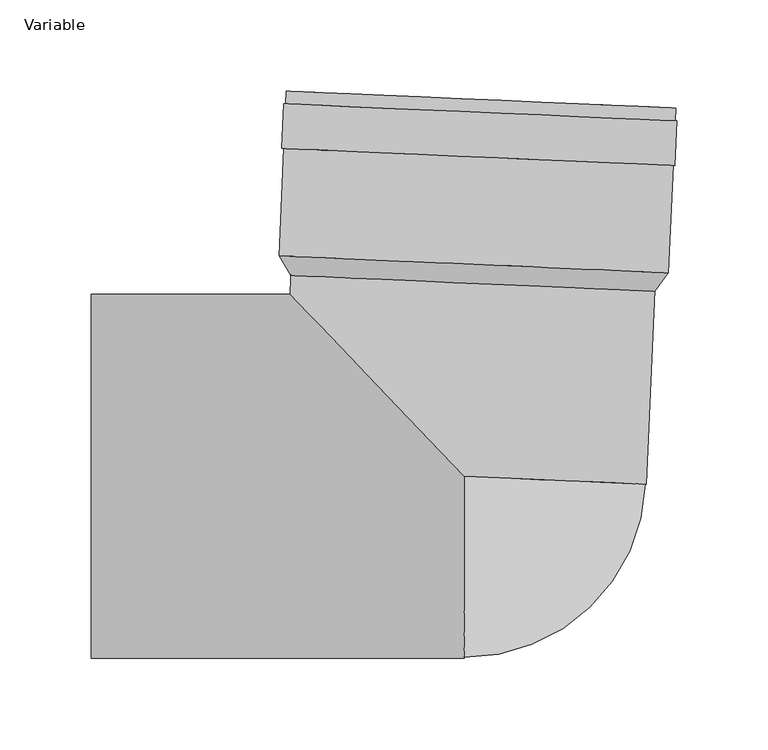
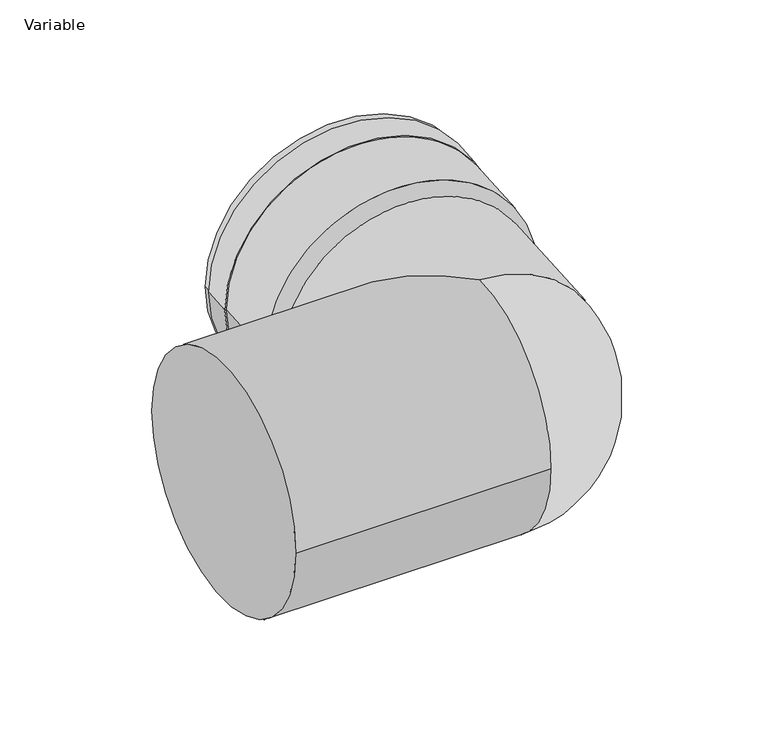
"""IFC4 building model written with IfcOpenShell, lengths in millimetres: pipe fitting geometry, AliaxisFR_Friaphon_ElbowMF_FR : Variable."""

from ifc_helpers import new_model, si_unit, point, frame, origin, place, context, project, spatial, polyline, circle_curve, ellipse_curve, trimmed, source, transform, mapped, element, save
from ifc_brep_helpers import plane_surface, cylinder_surface, revolved_surface, advanced_brep


def variable_7b961468(model_context):
    return source(origin(), model_context, "Body", "AdvancedBrep", [
        advanced_brep(
        [(115.9273729, 202.1357074, 0.0), (-97.8689465, 211.4702563, 0.0), (-90.875609, 211.1649206, 0.0), (108.9340353, 202.4410431, 0.0), (115.5524104, 170.6220691, 0.0), (-100.2420054, 180.0438567, 0.0), (-99.1733305, 204.5205382, 0.0), (116.6210854, 195.0987505, 0.0), (114.5533622, 170.6656884, 0.0), (-99.2429572, 180.0002373, 0.0), (111.9798183, 111.7218434, 0.0), (-101.8165011, 121.0563923, 0.0), (-95.2811671, 110.2610502, 0.0), (104.5284772, 101.5371728, 0.0), (115.6220372, 195.1423699, 0.0), (-98.1742822, 204.4769188, 0.0)],
        [
            (0, 1, circle_curve(frame((9.0292132, 206.8029819, 0.0), z_axis=(0.0436193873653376, 0.9990482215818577, 0.0), x_axis=(-0.9990482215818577, 0.0436193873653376, 0.0)), 107.0)),
            (1, 2),
            (2, 3, circle_curve(frame((9.0292132, 206.8029819, 0.0), z_axis=(-0.0436193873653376, -0.9990482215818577, 0.0), x_axis=(-0.9990482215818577, 0.0436193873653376, 0.0)), 100.0)),
            (3, 0),
            (1, 0, circle_curve(frame((9.0292132, 206.8029819, 0.0), z_axis=(0.0436193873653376, 0.9990482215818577, 0.0), x_axis=(-0.9990482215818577, 0.0436193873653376, 0.0)), 107.0)),
            (3, 2, circle_curve(frame((9.0292132, 206.8029819, 0.0), z_axis=(-0.0436193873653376, -0.9990482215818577, 0.0), x_axis=(-0.9990482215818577, 0.0436193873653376, 0.0)), 100.0)),
            (4, 5, circle_curve(frame((7.6552025, 175.3329629, 0.0), z_axis=(0.0436193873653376, 0.9990482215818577, 0.0), x_axis=(-0.9990482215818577, 0.0436193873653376, 0.0)), 108.0)),
            (5, 6),
            (6, 7, circle_curve(frame((8.7238775, 199.8096443, 0.0), z_axis=(-0.0436193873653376, -0.9990482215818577, 0.0), x_axis=(-0.9990482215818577, 0.0436193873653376, 0.0)), 108.0)),
            (7, 4),
            (5, 4, circle_curve(frame((7.6552025, 175.3329629, 0.0), z_axis=(0.0436193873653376, 0.9990482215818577, 0.0), x_axis=(-0.9990482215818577, 0.0436193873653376, 0.0)), 108.0)),
            (7, 6, circle_curve(frame((8.7238775, 199.8096443, 0.0), z_axis=(-0.0436193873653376, -0.9990482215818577, 0.0), x_axis=(-0.9990482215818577, 0.0436193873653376, 0.0)), 108.0)),
            (8, 9, circle_curve(frame((7.6552025, 175.3329629, 0.0), z_axis=(0.0436193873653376, 0.9990482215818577, 0.0), x_axis=(-0.9990482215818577, 0.0436193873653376, 0.0)), 107.0)),
            (9, 5),
            (4, 8),
            (9, 8, circle_curve(frame((7.6552025, 175.3329629, 0.0), z_axis=(0.0436193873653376, 0.9990482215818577, 0.0), x_axis=(-0.9990482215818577, 0.0436193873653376, 0.0)), 107.0)),
            (10, 11, circle_curve(frame((5.0816586, 116.3891178, 0.0), z_axis=(0.0436193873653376, 0.9990482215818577, 0.0), x_axis=(-0.9990482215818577, 0.0436193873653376, 0.0)), 107.0)),
            (11, 9),
            (8, 10),
            (11, 10, circle_curve(frame((5.0816586, 116.3891178, 0.0), z_axis=(0.0436193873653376, 0.9990482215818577, 0.0), x_axis=(-0.9990482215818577, 0.0436193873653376, 0.0)), 107.0)),
            (2, 12),
            (12, 13, circle_curve(frame((4.6236551, 105.8991115, 0.0), z_axis=(-0.0436193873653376, -0.9990482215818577, 0.0), x_axis=(-0.9990482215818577, 0.0436193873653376, 0.0)), 100.0)),
            (13, 3),
            (13, 12, circle_curve(frame((4.6236551, 105.8991115, 0.0), z_axis=(-0.0436193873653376, -0.9990482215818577, 0.0), x_axis=(-0.9990482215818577, 0.0436193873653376, 0.0)), 100.0)),
            (12, 11),
            (10, 13),
            (14, 15, circle_curve(frame((8.7238775, 199.8096443, 0.0), z_axis=(0.0436193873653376, 0.9990482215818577, 0.0), x_axis=(-0.9990482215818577, 0.0436193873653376, 0.0)), 107.0)),
            (15, 1),
            (0, 14),
            (15, 14, circle_curve(frame((8.7238775, 199.8096443, 0.0), z_axis=(0.0436193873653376, 0.9990482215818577, 0.0), x_axis=(-0.9990482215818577, 0.0436193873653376, 0.0)), 107.0)),
            (6, 15),
            (14, 7),
        ],
        [
            plane_surface(frame((9.0292132, 206.8029819, 0.0), z_axis=(0.0436193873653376, 0.9990482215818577, 0.0), x_axis=(-0.9990482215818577, 0.0436193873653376, 0.0))),
            cylinder_surface(frame((4.6236551, 105.8991115, 0.0), z_axis=(-0.0436193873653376, -0.9990482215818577, 0.0), x_axis=(-0.9990482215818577, 0.0436193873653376, 0.0)), 108.0),
            plane_surface(frame((7.6552025, 175.3329629, 0.0), z_axis=(-0.0436193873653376, -0.9990482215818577, 0.0), x_axis=(-0.9990482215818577, 0.0436193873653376, 0.0))),
            cylinder_surface(frame((4.6236551, 105.8991115, 0.0), z_axis=(-0.0436193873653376, -0.9990482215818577, 0.0), x_axis=(-0.9990482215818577, 0.0436193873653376, 0.0)), 107.0),
            revolved_surface(polyline([(-95.2811670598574, 110.26105019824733, 0.0), (-90.87560893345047, 211.16492063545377, 0.0)]), (4.6236551, 105.8991115, 0.0), (-0.0436193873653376, -0.9990482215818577, 0.0)),
            revolved_surface(polyline([(-101.8165011, 121.0563923, 0.0), (-95.2811671, 110.2610502, 0.0)]), (4.6236551, 105.8991115, 0.0), (-0.0436193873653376, -0.9990482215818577, 0.0)),
            plane_surface(frame((8.7238775, 199.8096443, 0.0), z_axis=(0.0436193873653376, 0.9990482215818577, 0.0), x_axis=(-0.9990482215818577, 0.0436193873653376, 0.0))),
        ],
        [
            (0, [[1, 2, 3, 4]]),
            (0, [[5, -4, 6, -2]]),
            (1, [[7, 8, 9, 10]]),
            (1, [[11, -10, 12, -8]]),
            (2, [[13, 14, -7, 15]]),
            (2, [[16, -15, -11, -14]]),
            (3, [[17, 18, -13, 19]]),
            (3, [[20, -19, -16, -18]]),
            (4, [[-3, 21, 22, 23]]),
            (4, [[-6, -23, 24, -21]]),
            (5, [[-22, 25, -17, 26]]),
            (5, [[-24, -26, -20, -25]]),
            (3, [[27, 28, -1, 29]]),
            (3, [[30, -29, -5, -28]]),
            (6, [[-9, 31, -27, 32]]),
            (6, [[-12, -32, -30, -31]]),
        ],
    ),
        advanced_brep(
        [(-94.9758314, 117.2543878, 0.0), (4.9289908, 112.892449, 100.0), (104.8338129, 108.5305103, 0.0), (4.9289908, 112.892449, -100.0), (99.9048222, -4.3619387, 0.0), (-95.7291742, 100.0, 0.0), (0.0, 0.0, 100.0), (0.0, 0.0, -100.0), (-205.0, -100.0, 0.0), (-205.0, 100.0, 0.0), (0.0, -100.0, 0.0)],
        [
            (0, 1, circle_curve(frame((4.9289908, 112.892449, 0.0), z_axis=(0.04361938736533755, 0.9990482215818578, 0.0), x_axis=(-0.9990482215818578, 0.04361938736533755, 0.0)), 100.0)),
            (1, 2, circle_curve(frame((4.9289908, 112.892449, 0.0), z_axis=(0.04361938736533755, 0.9990482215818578, 0.0), x_axis=(-0.9990482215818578, 0.04361938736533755, 0.0)), 100.0)),
            (2, 3, circle_curve(frame((4.9289908, 112.892449, 0.0), z_axis=(0.04361938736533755, 0.9990482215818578, 0.0), x_axis=(-0.9990482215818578, 0.04361938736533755, 0.0)), 100.0)),
            (3, 0, circle_curve(frame((4.9289908, 112.892449, 0.0), z_axis=(0.04361938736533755, 0.9990482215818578, 0.0), x_axis=(-0.9990482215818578, 0.04361938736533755, 0.0)), 100.0)),
            (4, 2),
            (0, 5),
            (5, 6, ellipse_curve(frame((0.0, 0.0, 0.0), z_axis=(0.7223639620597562, 0.6915130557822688, 0.0), x_axis=(0.6915130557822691, -0.7223639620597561, 0.0)), 138.43437, 100.0)),
            (6, 4, circle_curve(frame((0.0, 0.0, 0.0), z_axis=(0.04361938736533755, 0.9990482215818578, 0.0), x_axis=(-0.9990482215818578, 0.04361938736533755, 0.0)), 100.0)),
            (4, 7, circle_curve(frame((0.0, 0.0, 0.0), z_axis=(0.04361938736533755, 0.9990482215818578, 0.0), x_axis=(-0.9990482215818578, 0.04361938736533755, 0.0)), 100.0)),
            (7, 5, ellipse_curve(frame((0.0, 0.0, 0.0), z_axis=(0.7223639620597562, 0.6915130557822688, 0.0), x_axis=(0.6915130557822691, -0.7223639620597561, 0.0)), 138.43437, 100.0)),
            (8, 9, circle_curve(frame((-205.0, 0.0, 0.0), z_axis=(-1.0, 0.0, 0.0), x_axis=(0.0, 1.0, 0.0)), 100.0)),
            (9, 8, circle_curve(frame((-205.0, 0.0, 0.0), z_axis=(-1.0, 0.0, 0.0), x_axis=(0.0, 1.0, 0.0)), 100.0)),
            (8, 10),
            (10, 6, circle_curve(frame((0.0, 0.0, 0.0), z_axis=(-1.0, 0.0, 0.0), x_axis=(0.0, 1.0, 0.0)), 100.0)),
            (5, 9),
            (7, 10, circle_curve(frame((0.0, 0.0, 0.0), z_axis=(-1.0, 0.0, 0.0), x_axis=(0.0, 1.0, 0.0)), 100.0)),
        ],
        [
            plane_surface(frame((4.9289908, 112.892449, 0.0), z_axis=(0.04361938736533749, 0.9990482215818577, 0.0), x_axis=(0.0, 0.0, 1.0))),
            cylinder_surface(frame((0.0, 0.0, 0.0), z_axis=(-0.04361938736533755, -0.9990482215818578, 0.0), x_axis=(-0.9990482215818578, 0.04361938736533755, 0.0)), 100.0),
            plane_surface(frame((-205.0, 0.0, 0.0), z_axis=(-1.0, 0.0, 0.0), x_axis=(0.0, 0.0, 1.0))),
            cylinder_surface(frame((-205.0, 0.0, 0.0), z_axis=(-1.0, 0.0, 0.0), x_axis=(0.0, 1.0, 0.0)), 100.0),
            revolved_surface(trimmed(ellipse_curve(frame((0.0, 0.0, 0.0), z_axis=(0.0436193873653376, 0.9990482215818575, 0.0), x_axis=(-0.9990482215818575, 0.0436193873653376, 0.0)), 100.0, 100.0), [point((0.0, 0.0, 100.0))], [point((0.0, 0.0, -100.0))], True, "CARTESIAN"), (0.0, 0.0, 100.0), (0.0, 0.0, -1.0)),
        ],
        [
            (0, [[1, 2, 3, 4]]),
            (1, [[5, -2, -1, 6, 7, 8]]),
            (1, [[-5, 9, 10, -6, -4, -3]]),
            (2, [[11, 12]]),
            (3, [[-11, 13, 14, -7, 15]]),
            (3, [[-12, -15, -10, 16, -13]]),
            (4, [[-14, -16, -9, -8]]),
        ],
    ),
    ])


if __name__ == "__main__":
    model = new_model("IFC4")
    model_context = context("Model", 3, world=origin())
    ifc_project = project(units=[si_unit("LENGTHUNIT", "METRE", prefix="MILLI")], contexts=[model_context])
    site = spatial("IfcSite", under=ifc_project)
    building = spatial("IfcBuilding", under=site)
    placement = place(None, origin())
    variable_shape = variable_7b961468(model_context)
    element("IfcPipeFitting", 1, ObjectType="AliaxisFR_Friaphon_ElbowMF_FR : Variable", at=placement, inside=building, context=model_context, shape_type="MappedRepresentation", body=[
        mapped(variable_shape, transform((0.0, 0.0, 0.0), x_axis=(1.0, 0.0, 0.0), y_axis=(0.0, 1.0, 0.0), z_axis=(0.0, 0.0, 1.0))),
    ])
    save(model, "model.ifc")
